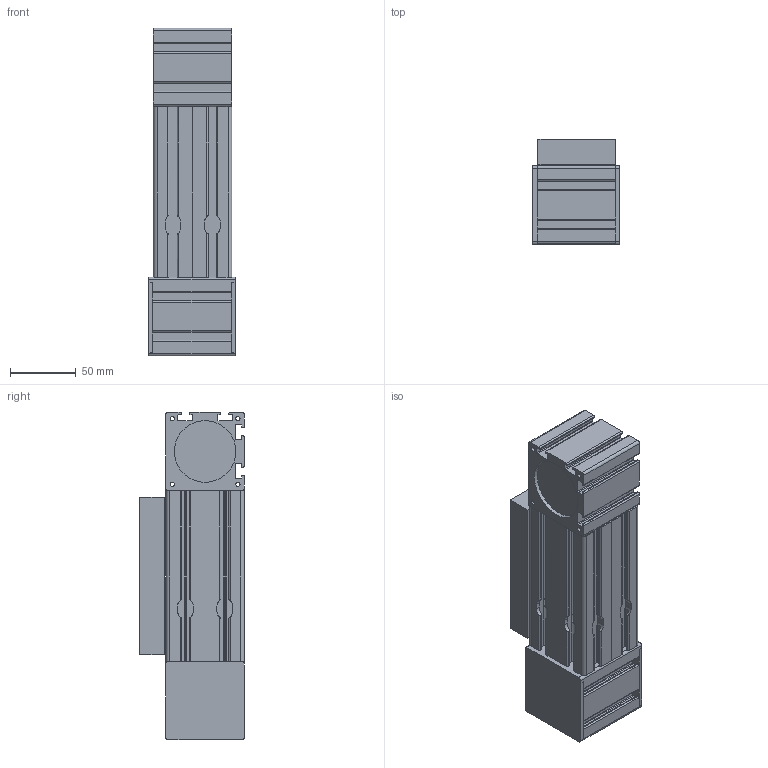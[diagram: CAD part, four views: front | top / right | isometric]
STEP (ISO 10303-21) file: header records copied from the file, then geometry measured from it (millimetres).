
FILE_DESCRIPTION (( 'STEP AP203' ), '1' );
FILE_NAME ('ML60HPC-11.STEP', '2023-03-23T08:23:51', ( '' ), ( '' ), 'SwSTEP 2.0', 'SolidWorks 2019', '' );
FILE_SCHEMA (( 'CONFIG_CONTROL_DESIGN' ));
Length unit declared in the file: millimetre
Products named in the file (5): TM60HP-11; TR60HP-11; CR60HP-11; ML60HPC-11; PR60HP-11-
Assembly tree (4 placements, depth 2):
  ML60HPC-11
    CR60HP-11
    PR60HP-11-
    TM60HP-11
    TR60HP-11
Bounding box: 66 x 80 x 250 mm (x, y, z)
Volume: 941996.2 mm3; surface area: 135102.1 mm2
Topology: 4 solids, 4 shells, 467 faces, 1315 edges, 858 vertices
Faces by surface type: cylinder 244, plane 211, cone 12
Full cylindrical faces by diameter (mm): 3.2 x4, 3.242 x8, 4.134 x4, 47 x2
Entity records: 17255 total; most frequent: CARTESIAN_POINT 4666, ORIENTED_EDGE 2554, DIRECTION 2513, EDGE_CURVE 1277, AXIS2_PLACEMENT_3D 858, VERTEX_POINT 850, LINE 797, VECTOR 797
